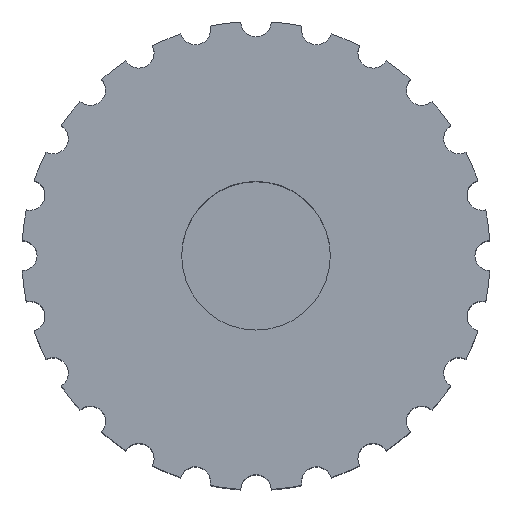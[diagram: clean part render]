
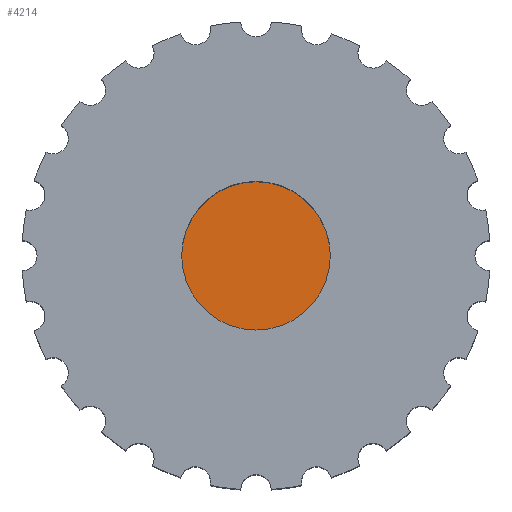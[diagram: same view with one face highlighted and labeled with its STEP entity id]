
A CAD part, top view. The second image highlights one B-rep face of the part: STEP entity #4214.
In plain terms, the highlighted planar face has unit normal (0, 0, 1).
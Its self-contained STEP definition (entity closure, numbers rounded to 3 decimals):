
#1554 = CYLINDRICAL_SURFACE('',#1555,3.175);
#1555 = AXIS2_PLACEMENT_3D('',#1556,#1557,#1558);
#1556 = CARTESIAN_POINT('',(0.,0.,3.));
#1557 = DIRECTION('',(0.,0.,1.));
#1558 = DIRECTION('',(1.,0.,-0.));
#3964 = VERTEX_POINT('',#3965);
#3965 = CARTESIAN_POINT('',(3.175,0.,3.));
#3986 = EDGE_CURVE('',#3964,#3964,#3987,.T.);
#3987 = SURFACE_CURVE('',#3988,(#3993,#4000),.PCURVE_S1.);
#3988 = CIRCLE('',#3989,3.175);
#3989 = AXIS2_PLACEMENT_3D('',#3990,#3991,#3992);
#3990 = CARTESIAN_POINT('',(0.,0.,3.));
#3991 = DIRECTION('',(0.,0.,1.));
#3992 = DIRECTION('',(1.,0.,-0.));
#3993 = PCURVE('',#1554,#3994);
#3994 = DEFINITIONAL_REPRESENTATION('',(#3995),#3999);
#3995 = LINE('',#3996,#3997);
#3996 = CARTESIAN_POINT('',(0.,0.));
#3997 = VECTOR('',#3998,1.);
#3998 = DIRECTION('',(1.,0.));
#3999 = ( GEOMETRIC_REPRESENTATION_CONTEXT(2)
PARAMETRIC_REPRESENTATION_CONTEXT() REPRESENTATION_CONTEXT('2D SPACE',''
  ) );
#4000 = PCURVE('',#4001,#4006);
#4001 = PLANE('',#4002);
#4002 = AXIS2_PLACEMENT_3D('',#4003,#4004,#4005);
#4003 = CARTESIAN_POINT('',(0.,0.,3.));
#4004 = DIRECTION('',(0.,0.,1.));
#4005 = DIRECTION('',(1.,0.,-0.));
#4006 = DEFINITIONAL_REPRESENTATION('',(#4007),#4011);
#4007 = CIRCLE('',#4008,3.175);
#4008 = AXIS2_PLACEMENT_2D('',#4009,#4010);
#4009 = CARTESIAN_POINT('',(0.,0.));
#4010 = DIRECTION('',(1.,0.));
#4011 = ( GEOMETRIC_REPRESENTATION_CONTEXT(2)
PARAMETRIC_REPRESENTATION_CONTEXT() REPRESENTATION_CONTEXT('2D SPACE',''
  ) );
#4214 = ADVANCED_FACE('',(#4215),#4001,.T.);
#4215 = FACE_BOUND('',#4216,.F.);
#4216 = EDGE_LOOP('',(#4217));
#4217 = ORIENTED_EDGE('',*,*,#3986,.F.);
